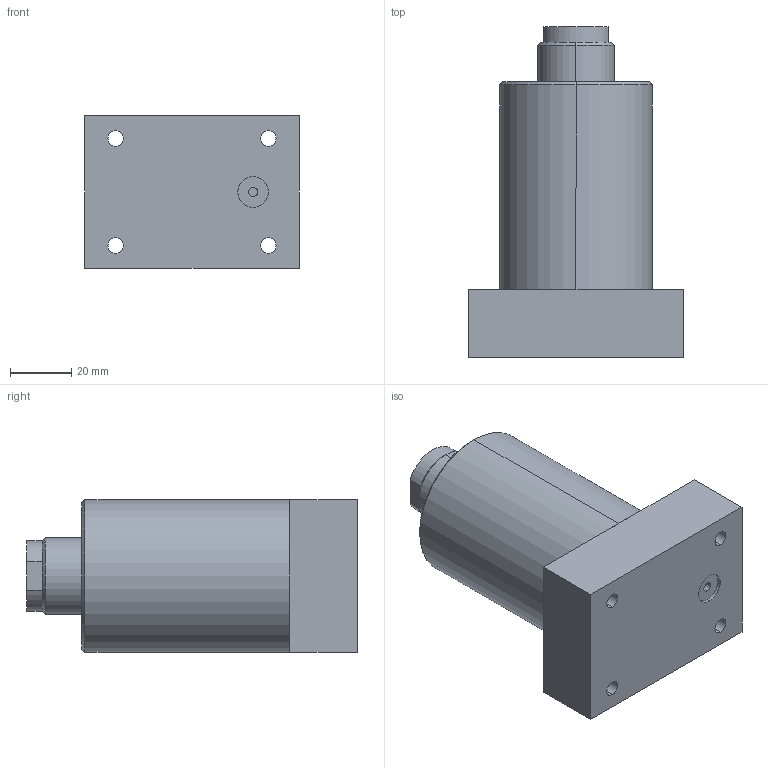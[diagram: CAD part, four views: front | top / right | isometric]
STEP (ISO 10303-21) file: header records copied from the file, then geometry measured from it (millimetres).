
FILE_DESCRIPTION (( 'STEP AP214' ), '1' );
FILE_NAME ('SP-25A.STEP', '2021-10-19T00:35:04', ( '' ), ( '' ), 'SwSTEP 2.0', 'SolidWorks 2016', '' );
FILE_SCHEMA (( 'AUTOMOTIVE_DESIGN' ));
Length unit declared in the file: millimetre
Products named in the file (1): SP-25A
Bounding box: 70 x 108 x 50 mm (x, y, z)
Volume: 213515.8 mm3; surface area: 27859 mm2
Topology: 1 solids, 1 shells, 70 faces, 158 edges, 97 vertices
Faces by surface type: cylinder 33, plane 27, cone 10
Entity records: 2139 total; most frequent: DIRECTION 369, CARTESIAN_POINT 322, ORIENTED_EDGE 308, EDGE_CURVE 154, AXIS2_PLACEMENT_3D 144, VERTEX_POINT 97, EDGE_LOOP 89, VECTOR 81
